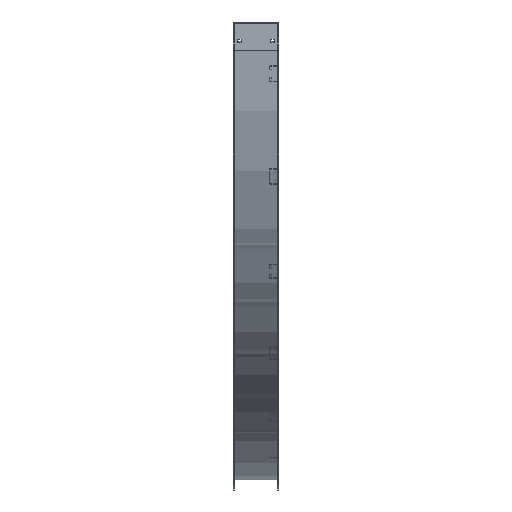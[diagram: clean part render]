
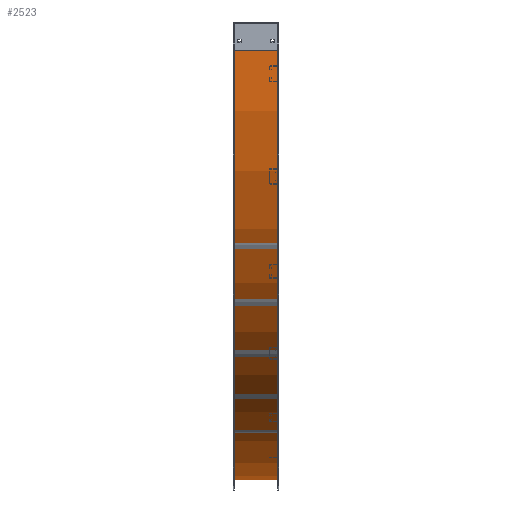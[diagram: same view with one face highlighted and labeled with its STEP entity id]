
A CAD part, left-side view. The second image highlights one B-rep face of the part: STEP entity #2523.
In plain terms, the highlighted cylindrical face has radius 1223.52 mm (diameter 2447.04 mm), a partial arc.
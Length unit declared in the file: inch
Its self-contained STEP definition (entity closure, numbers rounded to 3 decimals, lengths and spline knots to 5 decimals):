
#1560=CARTESIAN_POINT('',(-4.995,-48.09,3.));
#1561=DIRECTION('',(1.,0.,0.));
#1562=DIRECTION('',(0.,1.,0.));
#1563=AXIS2_PLACEMENT_3D('',#1560,#1561,#1562);
#1753=DIRECTION('',(-1.,0.,0.));
#1754=VECTOR('',#1753,4.91);
#1755=CARTESIAN_POINT('',(-0.085,-48.09,51.17));
#1756=LINE('',#1755,#1754);
#1793=DIRECTION('',(-1.,0.,0.));
#1794=VECTOR('',#1793,4.91);
#1795=CARTESIAN_POINT('',(-0.085,0.08,3.));
#1796=LINE('',#1795,#1794);
#1797=CARTESIAN_POINT('',(-0.085,-48.09,3.));
#1798=DIRECTION('',(1.,0.,0.));
#1799=DIRECTION('',(0.,1.,0.));
#1800=AXIS2_PLACEMENT_3D('',#1797,#1798,#1799);
#1924=CARTESIAN_POINT('',(-0.085,0.08,3.));
#1925=CARTESIAN_POINT('',(-4.995,0.08,3.));
#1926=VERTEX_POINT('',#1924);
#1927=VERTEX_POINT('',#1925);
#1948=CARTESIAN_POINT('',(-0.085,-48.09,51.17));
#1949=CARTESIAN_POINT('',(-4.995,-48.09,51.17));
#1950=VERTEX_POINT('',#1948);
#1951=VERTEX_POINT('',#1949);
#2512=CARTESIAN_POINT('',(-1.,-48.09,3.));
#2513=DIRECTION('',(1.,0.,0.));
#2514=DIRECTION('',(0.,-1.,0.));
#2515=AXIS2_PLACEMENT_3D('',#2512,#2513,#2514);
#2516=CYLINDRICAL_SURFACE('',#2515,48.17);
#2517=ORIENTED_EDGE('',*,*,#2297,.F.);
#2518=ORIENTED_EDGE('',*,*,#2338,.T.);
#2519=ORIENTED_EDGE('',*,*,#2485,.T.);
#2520=ORIENTED_EDGE('',*,*,#2275,.F.);
#2521=EDGE_LOOP('',(#2517,#2518,#2519,#2520));
#2522=FACE_OUTER_BOUND('',#2521,.F.);
#2523=ADVANCED_FACE('',(#2522),#2516,.T.);
#1564=CIRCLE('',#1563,48.17);
#1801=CIRCLE('',#1800,48.17);
#2275=EDGE_CURVE('',#1927,#1951,#1564,.T.);
#2297=EDGE_CURVE('',#1926,#1927,#1796,.T.);
#2338=EDGE_CURVE('',#1926,#1950,#1801,.T.);
#2485=EDGE_CURVE('',#1950,#1951,#1756,.T.);
